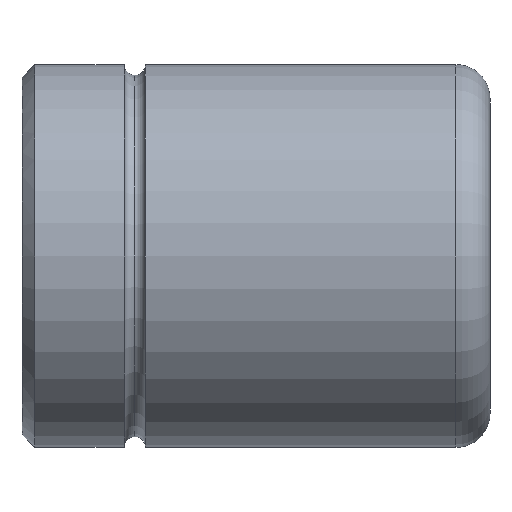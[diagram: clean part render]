
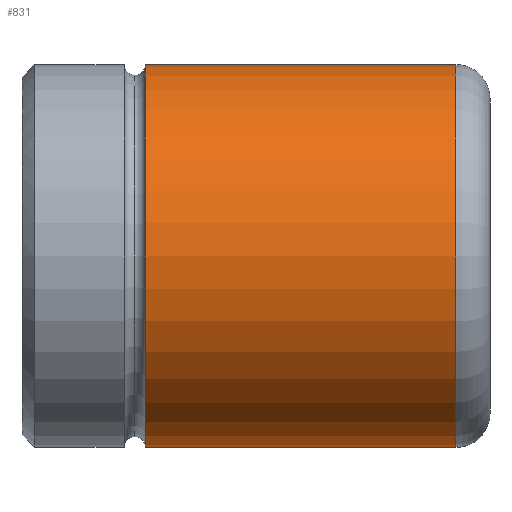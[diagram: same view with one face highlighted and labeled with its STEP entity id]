
A CAD part, front view. The second image highlights one B-rep face of the part: STEP entity #831.
In plain terms, the highlighted cylindrical face has radius 22.5 mm (diameter 45 mm), a partial arc.
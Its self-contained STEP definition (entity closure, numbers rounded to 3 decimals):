
#647=CARTESIAN_POINT('Vertex',(14.5,0.,22.5)) ;
#654=CARTESIAN_POINT('Vertex',(14.5,0.,-22.5)) ;
#680=CARTESIAN_POINT('Axis2P3D Location',(14.5,0.,0.)) ;
#684=CARTESIAN_POINT('Vertex',(14.5,-22.5,0.)) ;
#687=CARTESIAN_POINT('Axis2P3D Location',(14.5,0.,0.)) ;
#771=CARTESIAN_POINT('Line Origine',(55.,0.,22.5)) ;
#775=CARTESIAN_POINT('Vertex',(51.,0.,22.5)) ;
#789=CARTESIAN_POINT('Vertex',(51.,0.,-22.5)) ;
#792=CARTESIAN_POINT('Line Origine',(55.,0.,-22.5)) ;
#806=CARTESIAN_POINT('Axis2P3D Location',(55.,0.,0.)) ;
#811=CARTESIAN_POINT('Axis2P3D Location',(51.,0.,0.)) ;
#815=CARTESIAN_POINT('Vertex',(51.,-22.5,0.)) ;
#818=CARTESIAN_POINT('Axis2P3D Location',(51.,0.,0.)) ;
#681=DIRECTION('Axis2P3D Direction',(1.,0.,-0.)) ;
#688=DIRECTION('Axis2P3D Direction',(1.,0.,-0.)) ;
#772=DIRECTION('Vector Direction',(-1.,0.,0.)) ;
#793=DIRECTION('Vector Direction',(-1.,0.,0.)) ;
#807=DIRECTION('Axis2P3D Direction',(-1.,-0.,-0.)) ;
#808=DIRECTION('Axis2P3D XDirection',(0.,0.,-1.)) ;
#812=DIRECTION('Axis2P3D Direction',(-1.,-0.,-0.)) ;
#819=DIRECTION('Axis2P3D Direction',(-1.,-0.,-0.)) ;
#682=AXIS2_PLACEMENT_3D('Circle Axis2P3D',#680,#681,$) ;
#689=AXIS2_PLACEMENT_3D('Circle Axis2P3D',#687,#688,$) ;
#809=AXIS2_PLACEMENT_3D('Cylinder Axis2P3D',#806,#807,#808) ;
#813=AXIS2_PLACEMENT_3D('Circle Axis2P3D',#811,#812,$) ;
#820=AXIS2_PLACEMENT_3D('Circle Axis2P3D',#818,#819,$) ;
#824=ORIENTED_EDGE('',*,*,#796,.T.) ;
#825=ORIENTED_EDGE('',*,*,#817,.F.) ;
#826=ORIENTED_EDGE('',*,*,#822,.F.) ;
#827=ORIENTED_EDGE('',*,*,#777,.T.) ;
#828=ORIENTED_EDGE('',*,*,#691,.T.) ;
#829=ORIENTED_EDGE('',*,*,#686,.T.) ;
#773=VECTOR('Line Direction',#772,1.) ;
#794=VECTOR('Line Direction',#793,1.) ;
#831=ADVANCED_FACE('347-31 x 55',(#830),#810,.T.) ;
#683=CIRCLE('generated circle',#682,22.5) ;
#690=CIRCLE('generated circle',#689,22.5) ;
#814=CIRCLE('generated circle',#813,22.5) ;
#821=CIRCLE('generated circle',#820,22.5) ;
#810=CYLINDRICAL_SURFACE('generated cylinder',#809,22.5) ;
#686=EDGE_CURVE('',#685,#655,#683,.T.) ;
#691=EDGE_CURVE('',#648,#685,#690,.T.) ;
#777=EDGE_CURVE('',#776,#648,#774,.T.) ;
#796=EDGE_CURVE('',#655,#790,#795,.F.) ;
#817=EDGE_CURVE('',#816,#790,#814,.F.) ;
#822=EDGE_CURVE('',#776,#816,#821,.F.) ;
#823=EDGE_LOOP('',(#824,#825,#826,#827,#828,#829)) ;
#830=FACE_OUTER_BOUND('',#823,.T.) ;
#774=LINE('Line',#771,#773) ;
#795=LINE('Line',#792,#794) ;
#648=VERTEX_POINT('',#647) ;
#655=VERTEX_POINT('',#654) ;
#685=VERTEX_POINT('',#684) ;
#776=VERTEX_POINT('',#775) ;
#790=VERTEX_POINT('',#789) ;
#816=VERTEX_POINT('',#815) ;
